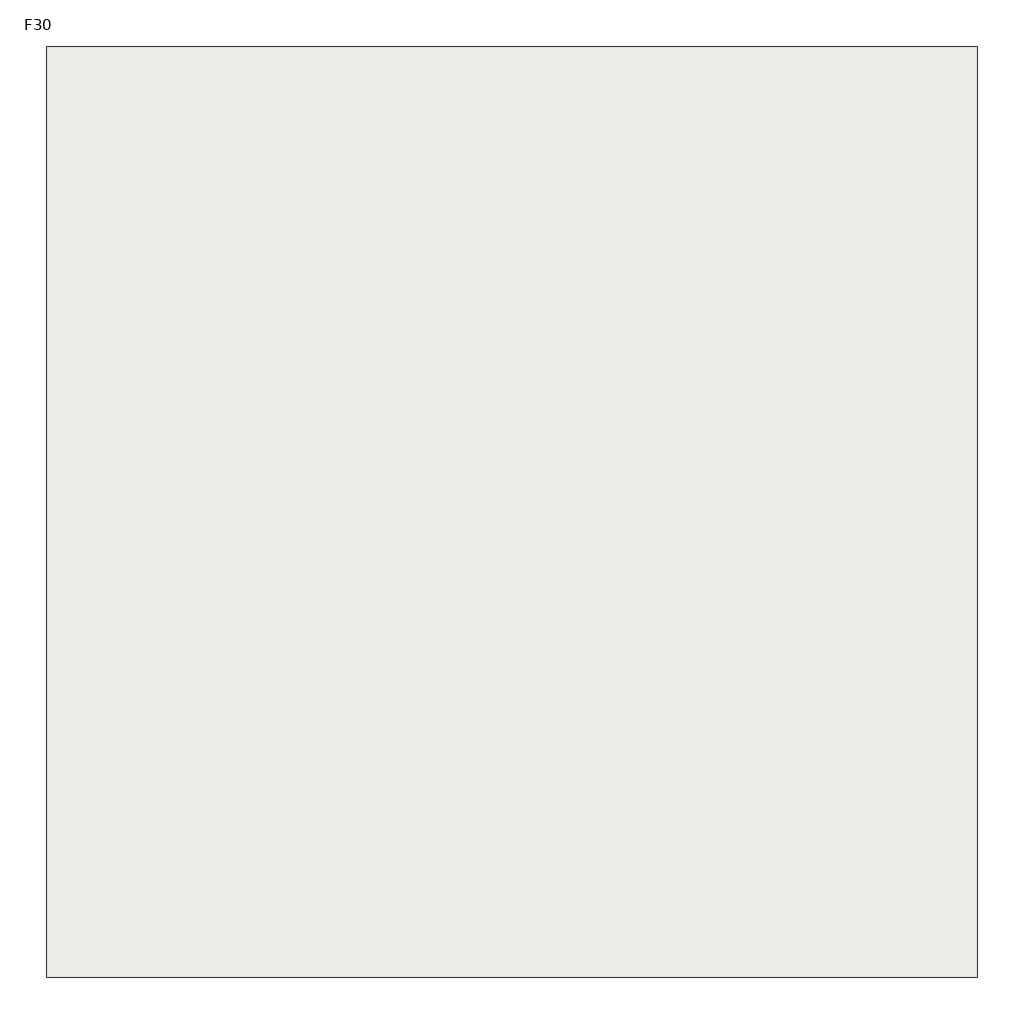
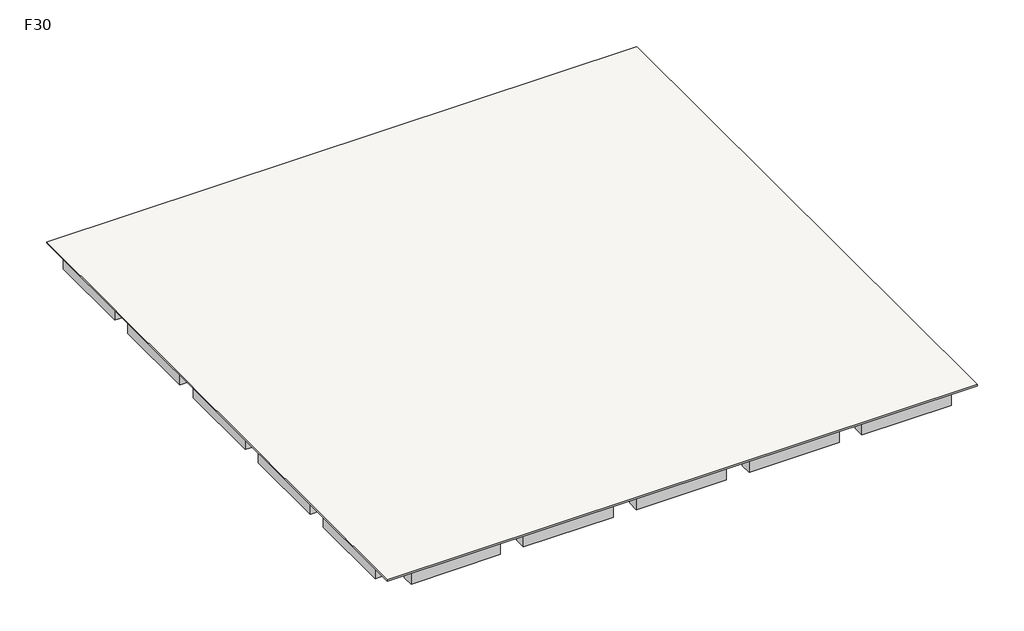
# One storey: 20 beams, 1 slab.
"""IFC4 building model written with IfcOpenShell, lengths in millimetres."""

from ifc_helpers import new_model, si_unit, frame, origin, place, context, project, spatial, polyline, outline, extrude, faceted_brep, element, save

model = new_model("IFC4")

# Units and contexts
model_context = context("Model", 3, world=origin())
ifc_project = project(units=[si_unit("LENGTHUNIT", "METRE", prefix="MILLI")], contexts=[model_context])

# Site, building, storey
site = spatial("IfcSite", under=ifc_project)
building = spatial("IfcBuilding", under=site)
storey = spatial("IfcBuildingStorey", under=building, Name="F30", Elevation=108000.0)

# Beams
placement = place(None, origin())
element("IfcBeam", 1, ObjectType="混凝土 - 矩形梁 : KL(5)-800x1000", at=placement, inside=storey, context=model_context, shape_type="SweptSolid", body=[
    extrude(outline(polyline([(25327.3257831, 27051.0498658), (25327.3257831, 26251.0498658), (19077.3257831, 26251.0498658), (19077.3257831, 27051.0498658), (25327.3257831, 27051.0498658)])), frame((0.0, 0.0, 107000.0), z_axis=(0.0, 0.0, 1.0), x_axis=(1.0, 0.0, 0.0)), (0.0, 0.0, 1.0), 900.0),
    extrude(outline(polyline([(-12472.6742169, 26251.0498658), (-12472.6742169, 27051.0498658), (-6222.6742169, 27051.0498658), (-6222.6742169, 26251.0498658), (-12472.6742169, 26251.0498658)])), frame((0.0, 0.0, 107000.0), z_axis=(0.0, 0.0, 1.0), x_axis=(1.0, 0.0, 0.0)), (0.0, 0.0, 1.0), 900.0),
    extrude(outline(polyline([(-4622.6742169, 26251.0498658), (-4622.6742169, 27051.0498658), (1677.3257831, 27051.0498658), (1677.3257831, 26251.0498658), (-4622.6742169, 26251.0498658)])), frame((0.0, 0.0, 107000.0), z_axis=(0.0, 0.0, 1.0), x_axis=(1.0, 0.0, 0.0)), (0.0, 0.0, 1.0), 900.0),
    extrude(outline(polyline([(3277.3257831, 26251.0498658), (3277.3257831, 27051.0498658), (9577.3257831, 27051.0498658), (9577.3257831, 26251.0498658), (3277.3257831, 26251.0498658)])), frame((0.0, 0.0, 107000.0), z_axis=(0.0, 0.0, 1.0), x_axis=(1.0, 0.0, 0.0)), (0.0, 0.0, 1.0), 900.0),
    extrude(outline(polyline([(11177.3257831, 26251.0498658), (11177.3257831, 27051.0498658), (17477.3257831, 27051.0498658), (17477.3257831, 26251.0498658), (11177.3257831, 26251.0498658)])), frame((0.0, 0.0, 107000.0), z_axis=(0.0, 0.0, 1.0), x_axis=(1.0, 0.0, 0.0)), (0.0, 0.0, 1.0), 900.0),
])
element("IfcBeam", 2, ObjectType="混凝土 - 矩形梁 : KL(5)-800x1000", at=placement, inside=storey, context=model_context, shape_type="SweptSolid", body=[
    extrude(outline(polyline([(26927.3257831, -12348.9501342), (26127.3257831, -12348.9501342), (26127.3257831, -6098.9501342), (26927.3257831, -6098.9501342), (26927.3257831, -12348.9501342)])), frame((0.0, 0.0, 107000.0), z_axis=(0.0, 0.0, 1.0), x_axis=(1.0, 0.0, 0.0)), (0.0, 0.0, 1.0), 900.0),
    extrude(outline(polyline([(26127.3257831, 25451.0498658), (26927.3257831, 25451.0498658), (26927.3257831, 19201.0498658), (26127.3257831, 19201.0498658), (26127.3257831, 25451.0498658)])), frame((0.0, 0.0, 107000.0), z_axis=(0.0, 0.0, 1.0), x_axis=(1.0, 0.0, 0.0)), (0.0, 0.0, 1.0), 900.0),
    extrude(outline(polyline([(26127.3257831, 17601.0498658), (26927.3257831, 17601.0498658), (26927.3257831, 11301.0498658), (26127.3257831, 11301.0498658), (26127.3257831, 17601.0498658)])), frame((0.0, 0.0, 107000.0), z_axis=(0.0, 0.0, 1.0), x_axis=(1.0, 0.0, 0.0)), (0.0, 0.0, 1.0), 900.0),
    extrude(outline(polyline([(26127.3257831, 9701.0498658), (26927.3257831, 9701.0498658), (26927.3257831, 3401.0498658), (26127.3257831, 3401.0498658), (26127.3257831, 9701.0498658)])), frame((0.0, 0.0, 107000.0), z_axis=(0.0, 0.0, 1.0), x_axis=(1.0, 0.0, 0.0)), (0.0, 0.0, 1.0), 900.0),
    extrude(outline(polyline([(26127.3257831, 1801.0498658), (26927.3257831, 1801.0498658), (26927.3257831, -4498.9501342), (26127.3257831, -4498.9501342), (26127.3257831, 1801.0498658)])), frame((0.0, 0.0, 107000.0), z_axis=(0.0, 0.0, 1.0), x_axis=(1.0, 0.0, 0.0)), (0.0, 0.0, 1.0), 900.0),
])
element("IfcBeam", 3, ObjectType="混凝土 - 矩形梁 : KL(5)-800x1000", at=placement, inside=storey, context=model_context, shape_type="SweptSolid", body=[
    extrude(outline(polyline([(-12472.6742169, -13948.9501342), (-12472.6742169, -13148.9501342), (-6222.6742169, -13148.9501342), (-6222.6742169, -13948.9501342), (-12472.6742169, -13948.9501342)])), frame((0.0, 0.0, 107000.0), z_axis=(0.0, 0.0, 1.0), x_axis=(1.0, 0.0, 0.0)), (0.0, 0.0, 1.0), 900.0),
    extrude(outline(polyline([(25327.3257831, -13148.9501342), (25327.3257831, -13948.9501342), (19077.3257831, -13948.9501342), (19077.3257831, -13148.9501342), (25327.3257831, -13148.9501342)])), frame((0.0, 0.0, 107000.0), z_axis=(0.0, 0.0, 1.0), x_axis=(1.0, 0.0, 0.0)), (0.0, 0.0, 1.0), 900.0),
    extrude(outline(polyline([(-4622.6742169, -13948.9501342), (-4622.6742169, -13148.9501342), (1677.3257831, -13148.9501342), (1677.3257831, -13948.9501342), (-4622.6742169, -13948.9501342)])), frame((0.0, 0.0, 107000.0), z_axis=(0.0, 0.0, 1.0), x_axis=(1.0, 0.0, 0.0)), (0.0, 0.0, 1.0), 900.0),
    extrude(outline(polyline([(3277.3257831, -13948.9501342), (3277.3257831, -13148.9501342), (9577.3257831, -13148.9501342), (9577.3257831, -13948.9501342), (3277.3257831, -13948.9501342)])), frame((0.0, 0.0, 107000.0), z_axis=(0.0, 0.0, 1.0), x_axis=(1.0, 0.0, 0.0)), (0.0, 0.0, 1.0), 900.0),
    extrude(outline(polyline([(11177.3257831, -13948.9501342), (11177.3257831, -13148.9501342), (17477.3257831, -13148.9501342), (17477.3257831, -13948.9501342), (11177.3257831, -13948.9501342)])), frame((0.0, 0.0, 107000.0), z_axis=(0.0, 0.0, 1.0), x_axis=(1.0, 0.0, 0.0)), (0.0, 0.0, 1.0), 900.0),
])
element("IfcBeam", 4, ObjectType="混凝土 - 矩形梁 : KL(5)-800x1000", at=placement, inside=storey, context=model_context, shape_type="SweptSolid", body=[
    extrude(outline(polyline([(-14072.6742169, 25451.0498658), (-13272.6742169, 25451.0498658), (-13272.6742169, 19201.0498658), (-14072.6742169, 19201.0498658), (-14072.6742169, 25451.0498658)])), frame((0.0, 0.0, 107000.0), z_axis=(0.0, 0.0, 1.0), x_axis=(1.0, 0.0, 0.0)), (0.0, 0.0, 1.0), 900.0),
    extrude(outline(polyline([(-13272.6742169, -12348.9501342), (-14072.6742169, -12348.9501342), (-14072.6742169, -6098.9501342), (-13272.6742169, -6098.9501342), (-13272.6742169, -12348.9501342)])), frame((0.0, 0.0, 107000.0), z_axis=(0.0, 0.0, 1.0), x_axis=(1.0, 0.0, 0.0)), (0.0, 0.0, 1.0), 900.0),
    extrude(outline(polyline([(-14072.6742169, 17601.0498658), (-13272.6742169, 17601.0498658), (-13272.6742169, 11301.0498658), (-14072.6742169, 11301.0498658), (-14072.6742169, 17601.0498658)])), frame((0.0, 0.0, 107000.0), z_axis=(0.0, 0.0, 1.0), x_axis=(1.0, 0.0, 0.0)), (0.0, 0.0, 1.0), 900.0),
    extrude(outline(polyline([(-14072.6742169, 9701.0498658), (-13272.6742169, 9701.0498658), (-13272.6742169, 3401.0498658), (-14072.6742169, 3401.0498658), (-14072.6742169, 9701.0498658)])), frame((0.0, 0.0, 107000.0), z_axis=(0.0, 0.0, 1.0), x_axis=(1.0, 0.0, 0.0)), (0.0, 0.0, 1.0), 900.0),
    extrude(outline(polyline([(-14072.6742169, 1801.0498658), (-13272.6742169, 1801.0498658), (-13272.6742169, -4498.9501342), (-14072.6742169, -4498.9501342), (-14072.6742169, 1801.0498658)])), frame((0.0, 0.0, 107000.0), z_axis=(0.0, 0.0, 1.0), x_axis=(1.0, 0.0, 0.0)), (0.0, 0.0, 1.0), 900.0),
])
element("IfcBeam", 5, ObjectType="混凝土 - 矩形梁 : L1-800x500", at=placement, inside=storey, context=model_context, shape_type="Brep", body=[
    faceted_brep([(-12472.6742169, -5512.1353397, 107500.0), (-3746.9473979, -3341.556529, 107500.0), (-3173.6696907, -3198.9501342, 107500.0), (-3173.6696907, -3198.9501342, 107900.0), (-3746.9473979, -3341.556529, 107900.0), (-12472.6742169, -5512.1353397, 107900.0), (-3622.6742169, -3198.9501342, 107500.0), (-12472.6742169, -4687.7549784, 107500.0), (-3622.6742169, -2486.2624411, 107500.0), (-3622.6742169, -2798.9501342, 107500.0), (-12472.6742169, -4687.7549784, 107900.0), (-3622.6742169, -2486.2624411, 107900.0), (-3622.6742169, -3198.9501342, 107900.0)], [[[0, 1, 2, 3, 4, 5]], [[6, 2, 1, 0, 7, 8, 9]], [[8, 7, 10, 11]], [[2, 6, 12, 3]], [[9, 8, 11, 12, 6]], [[7, 0, 5, 10]], [[5, 4, 3, 12, 11, 10]]]),
])
element("IfcBeam", 6, ObjectType="混凝土 - 矩形梁 : L1-800x500", at=placement, inside=storey, context=model_context, shape_type="SweptSolid", body=[
    extrude(outline(polyline([(-3746.9473979, -3341.556529), (-3173.6696907, -3198.9501342), (-2898.7618154, -3198.9501342), (-4843.6893517, -12348.9501342), (-5661.5624638, -12348.9501342), (-3746.9473979, -3341.556529)])), frame((0.0, 0.0, 107500.0), z_axis=(0.0, 0.0, 1.0), x_axis=(1.0, 0.0, 0.0)), (0.0, 0.0, 1.0), 400.0),
])
element("IfcBeam", 7, ObjectType="混凝土 - 矩形梁 : L1-800x500", at=placement, inside=storey, context=model_context, shape_type="SweptSolid", body=[
    extrude(outline(polyline([(-12472.6742169, 2201.0498658), (-12472.6742169, 3001.0498658), (-3622.6742169, 3001.0498658), (-3622.6742169, 2201.0498658), (-12472.6742169, 2201.0498658)])), frame((0.0, 0.0, 107500.0), z_axis=(0.0, 0.0, 1.0), x_axis=(1.0, 0.0, 0.0)), (0.0, 0.0, 1.0), 400.0),
])
element("IfcBeam", 8, ObjectType="混凝土 - 矩形梁 : L1-800x500", at=placement, inside=storey, context=model_context, shape_type="SweptSolid", body=[
    extrude(outline(polyline([(-12472.6742169, 10101.0498658), (-12472.6742169, 10901.0498658), (-3622.6742169, 10901.0498658), (-3622.6742169, 10101.0498658), (-12472.6742169, 10101.0498658)])), frame((0.0, 0.0, 107500.0), z_axis=(0.0, 0.0, 1.0), x_axis=(1.0, 0.0, 0.0)), (0.0, 0.0, 1.0), 400.0),
])
element("IfcBeam", 9, ObjectType="混凝土 - 矩形梁 : L1-800x500", at=placement, inside=storey, context=model_context, shape_type="Brep", body=[
    faceted_brep([(-12472.6742169, 17789.85471, 107500.0), (-3622.6742169, 15588.3621727, 107500.0), (-3622.6742169, 15588.3621727, 107900.0), (-12472.6742169, 17789.85471, 107900.0), (-3173.6696907, 16301.0498658, 107500.0), (-3622.6742169, 16301.0498658, 107500.0), (-3622.6742169, 15901.0498658, 107500.0), (-12472.6742169, 18614.2350714, 107500.0), (-3746.9473979, 16443.6562607, 107500.0), (-12472.6742169, 18614.2350714, 107900.0), (-3746.9473979, 16443.6562607, 107900.0), (-3173.6696907, 16301.0498658, 107900.0), (-3622.6742169, 16301.0498658, 107900.0)], [[[0, 1, 2, 3]], [[4, 5, 6, 1, 0, 7, 8]], [[4, 8, 7, 9, 10, 11]], [[6, 5, 12, 2, 1]], [[5, 4, 11, 12]], [[7, 0, 3, 9]], [[3, 2, 12, 11, 10, 9]]]),
])
element("IfcBeam", 10, ObjectType="混凝土 - 矩形梁 : L1-800x500", at=placement, inside=storey, context=model_context, shape_type="SweptSolid", body=[
    extrude(outline(polyline([(-3173.6696907, 16301.0498658), (-3746.9473979, 16443.6562607), (-5661.5624638, 25451.0498658), (-4843.6893517, 25451.0498658), (-2898.7618154, 16301.0498658), (-3173.6696907, 16301.0498658)])), frame((0.0, 0.0, 107500.0), z_axis=(0.0, 0.0, 1.0), x_axis=(1.0, 0.0, 0.0)), (0.0, 0.0, 1.0), 400.0),
])
element("IfcBeam", 11, ObjectType="混凝土 - 矩形梁 : L1-800x500", at=placement, inside=storey, context=model_context, shape_type="SweptSolid", body=[
    extrude(outline(polyline([(2077.3257831, 25451.0498658), (2877.3257831, 25451.0498658), (2877.3257831, 15901.0498658), (2077.3257831, 15901.0498658), (2077.3257831, 25451.0498658)])), frame((0.0, 0.0, 107500.0), z_axis=(0.0, 0.0, 1.0), x_axis=(1.0, 0.0, 0.0)), (0.0, 0.0, 1.0), 400.0),
])
element("IfcBeam", 12, ObjectType="混凝土 - 矩形梁 : L1-800x500", at=placement, inside=storey, context=model_context, shape_type="SweptSolid", body=[
    extrude(outline(polyline([(9977.3257831, 25451.0498658), (10777.3257831, 25451.0498658), (10777.3257831, 15901.0498658), (9977.3257831, 15901.0498658), (9977.3257831, 25451.0498658)])), frame((0.0, 0.0, 107500.0), z_axis=(0.0, 0.0, 1.0), x_axis=(1.0, 0.0, 0.0)), (0.0, 0.0, 1.0), 400.0),
])
element("IfcBeam", 13, ObjectType="混凝土 - 矩形梁 : L1-800x500", at=placement, inside=storey, context=model_context, shape_type="SweptSolid", body=[
    extrude(outline(polyline([(2877.3257831, -12348.9501342), (2077.3257831, -12348.9501342), (2077.3257831, -2798.9501342), (2877.3257831, -2798.9501342), (2877.3257831, -12348.9501342)])), frame((0.0, 0.0, 107500.0), z_axis=(0.0, 0.0, 1.0), x_axis=(1.0, 0.0, 0.0)), (0.0, 0.0, 1.0), 400.0),
])
element("IfcBeam", 14, ObjectType="混凝土 - 矩形梁 : L1-800x500", at=placement, inside=storey, context=model_context, shape_type="SweptSolid", body=[
    extrude(outline(polyline([(10777.3257831, -12348.9501342), (9977.3257831, -12348.9501342), (9977.3257831, -2798.9501342), (10777.3257831, -2798.9501342), (10777.3257831, -12348.9501342)])), frame((0.0, 0.0, 107500.0), z_axis=(0.0, 0.0, 1.0), x_axis=(1.0, 0.0, 0.0)), (0.0, 0.0, 1.0), 400.0),
])
element("IfcBeam", 15, ObjectType="混凝土 - 矩形梁 : L1-800x500", at=placement, inside=storey, context=model_context, shape_type="Brep", body=[
    faceted_brep([(25327.3257831, -4687.7549784, 107500.0), (16477.3257831, -2486.2624411, 107500.0), (16477.3257831, -2486.2624411, 107900.0), (25327.3257831, -4687.7549784, 107900.0), (16028.3212569, -3198.9501342, 107500.0), (16477.3257831, -3198.9501342, 107500.0), (16477.3257831, -2798.9501342, 107500.0), (25327.3257831, -5512.1353397, 107500.0), (16601.5989641, -3341.556529, 107500.0), (25327.3257831, -5512.1353397, 107900.0), (16601.5989641, -3341.556529, 107900.0), (16028.3212569, -3198.9501342, 107900.0), (16477.3257831, -3198.9501342, 107900.0)], [[[0, 1, 2, 3]], [[4, 5, 6, 1, 0, 7, 8]], [[4, 8, 7, 9, 10, 11]], [[6, 5, 12, 2, 1]], [[5, 4, 11, 12]], [[7, 0, 3, 9]], [[3, 2, 12, 11, 10, 9]]]),
])
element("IfcBeam", 16, ObjectType="混凝土 - 矩形梁 : L1-800x500", at=placement, inside=storey, context=model_context, shape_type="SweptSolid", body=[
    extrude(outline(polyline([(16028.3212569, -3198.9501342), (16601.5989641, -3341.556529), (18516.21403, -12348.9501342), (17698.3409179, -12348.9501342), (15753.4133817, -3198.9501342), (16028.3212569, -3198.9501342)])), frame((0.0, 0.0, 107500.0), z_axis=(0.0, 0.0, 1.0), x_axis=(1.0, 0.0, 0.0)), (0.0, 0.0, 1.0), 400.0),
])
element("IfcBeam", 17, ObjectType="混凝土 - 矩形梁 : L1-800x500", at=placement, inside=storey, context=model_context, shape_type="SweptSolid", body=[
    extrude(outline(polyline([(25327.3257831, 3001.0498658), (25327.3257831, 2201.0498658), (16477.3257831, 2201.0498658), (16477.3257831, 3001.0498658), (25327.3257831, 3001.0498658)])), frame((0.0, 0.0, 107500.0), z_axis=(0.0, 0.0, 1.0), x_axis=(1.0, 0.0, 0.0)), (0.0, 0.0, 1.0), 400.0),
])
element("IfcBeam", 18, ObjectType="混凝土 - 矩形梁 : L1-800x500", at=placement, inside=storey, context=model_context, shape_type="SweptSolid", body=[
    extrude(outline(polyline([(25327.3257831, 10901.0498658), (25327.3257831, 10101.0498658), (16477.3257831, 10101.0498658), (16477.3257831, 10901.0498658), (25327.3257831, 10901.0498658)])), frame((0.0, 0.0, 107500.0), z_axis=(0.0, 0.0, 1.0), x_axis=(1.0, 0.0, 0.0)), (0.0, 0.0, 1.0), 400.0),
])
element("IfcBeam", 19, ObjectType="混凝土 - 矩形梁 : L1-800x500", at=placement, inside=storey, context=model_context, shape_type="Brep", body=[
    faceted_brep([(25327.3257831, 18610.6867312, 107500.0), (16590.8993897, 16393.3196262, 107500.0), (16227.3565337, 16301.0498658, 107500.0), (16227.3565337, 16301.0498658, 107900.0), (16590.8993897, 16393.3196262, 107900.0), (25327.3257831, 18610.6867312, 107900.0), (16477.3257831, 16301.0498658, 107500.0), (25327.3257831, 17785.3216299, 107500.0), (16477.3257831, 15539.1287365, 107500.0), (16477.3257831, 15901.0498658, 107500.0), (25327.3257831, 17785.3216299, 107900.0), (16477.3257831, 15539.1287365, 107900.0), (16477.3257831, 16301.0498658, 107900.0)], [[[0, 1, 2, 3, 4, 5]], [[6, 2, 1, 0, 7, 8, 9]], [[8, 7, 10, 11]], [[9, 8, 11, 12, 6]], [[2, 6, 12, 3]], [[7, 0, 5, 10]], [[5, 4, 3, 12, 11, 10]]]),
])
element("IfcBeam", 20, ObjectType="混凝土 - 矩形梁 : L1-800x500", at=placement, inside=storey, context=model_context, shape_type="SweptSolid", body=[
    extrude(outline(polyline([(16590.8993897, 16393.3196262), (16227.3565337, 16301.0498658), (15753.4133817, 16301.0498658), (17698.3409179, 25451.0498658), (18516.21403, 25451.0498658), (16590.8993897, 16393.3196262)])), frame((0.0, 0.0, 107500.0), z_axis=(0.0, 0.0, 1.0), x_axis=(1.0, 0.0, 0.0)), (0.0, 0.0, 1.0), 400.0),
])

# Slab
element("IfcSlab", 21, ObjectType="LB-100", at=placement, inside=storey, context=model_context, shape_type="SweptSolid", body=[
    extrude(outline(polyline([(27077.3257831, 27201.0498658), (27077.3257831, -14085.2672073), (-14222.6742169, -14085.2672073), (-14222.6742169, 27201.0498658), (27077.3257831, 27201.0498658)])), frame((0.0, 0.0, 107900.0), z_axis=(0.0, 0.0, 1.0), x_axis=(1.0, 0.0, 0.0)), (0.0, 0.0, 1.0), 100.0),
])

save(model, "model.ifc")
